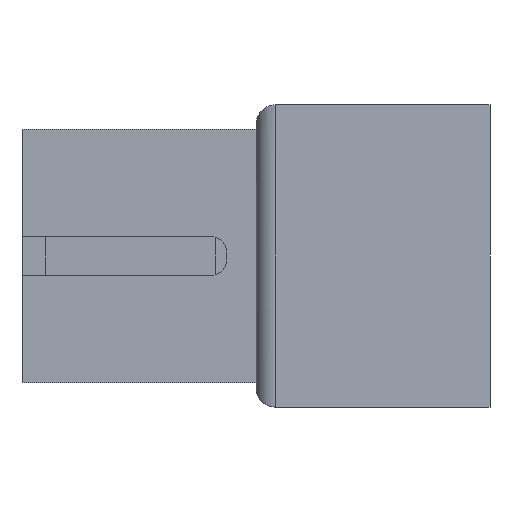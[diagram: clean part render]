
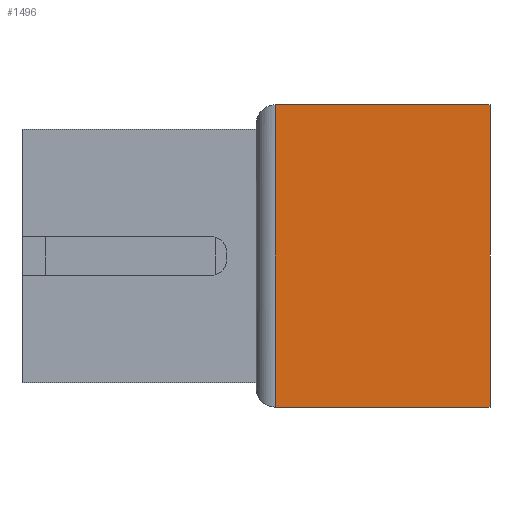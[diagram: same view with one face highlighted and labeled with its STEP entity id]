
A CAD part, front view. The second image highlights one B-rep face of the part: STEP entity #1496.
In plain terms, the highlighted planar face has unit normal (0, -1, 0).
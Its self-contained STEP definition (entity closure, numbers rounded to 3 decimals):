
#120 = ORIENTED_EDGE ( 'NONE', *, *, #452, .T. ) ;
#209 = CARTESIAN_POINT ( 'NONE',  ( -12., 0., -15.5 ) ) ;
#341 = CARTESIAN_POINT ( 'NONE',  ( 0., 0., -15.5 ) ) ;
#437 = DIRECTION ( 'NONE',  ( 1., 0., 0. ) ) ;
#444 = CARTESIAN_POINT ( 'NONE',  ( -11., 0., -15.5 ) ) ;
#452 = EDGE_CURVE ( 'NONE', #2673, #1414, #493, .T. ) ;
#493 = LINE ( 'NONE', #1318, #1036 ) ;
#542 = FACE_OUTER_BOUND ( 'NONE', #2362, .T. ) ;
#558 = VECTOR ( 'NONE', #2357, 1000. ) ;
#611 = CARTESIAN_POINT ( 'NONE',  ( -12., 0., 0. ) ) ;
#748 = LINE ( 'NONE', #611, #2725 ) ;
#916 = EDGE_CURVE ( 'NONE', #2673, #1423, #748, .T. ) ;
#967 = DIRECTION ( 'NONE',  ( 0., -1., 0. ) ) ;
#977 = ORIENTED_EDGE ( 'NONE', *, *, #2903, .T. ) ;
#1036 = VECTOR ( 'NONE', #1548, 1000. ) ;
#1126 = CARTESIAN_POINT ( 'NONE',  ( 0., 0., 0. ) ) ;
#1198 = VECTOR ( 'NONE', #437, 1000. ) ;
#1201 = DIRECTION ( 'NONE',  ( 0., 0., -1. ) ) ;
#1318 = CARTESIAN_POINT ( 'NONE',  ( -11., 0., 0. ) ) ;
#1414 = VERTEX_POINT ( 'NONE', #444 ) ;
#1423 = VERTEX_POINT ( 'NONE', #1126 ) ;
#1496 = ADVANCED_FACE ( 'NONE', ( #542 ), #2560, .T. ) ;
#1548 = DIRECTION ( 'NONE',  ( 0., 0., -1. ) ) ;
#1683 = AXIS2_PLACEMENT_3D ( 'NONE', #2336, #967, #1201 ) ;
#2134 = CARTESIAN_POINT ( 'NONE',  ( 0., 0., 0. ) ) ;
#2176 = ORIENTED_EDGE ( 'NONE', *, *, #916, .F. ) ;
#2277 = ORIENTED_EDGE ( 'NONE', *, *, #2513, .F. ) ;
#2336 = CARTESIAN_POINT ( 'NONE',  ( -12., 0., 0. ) ) ;
#2357 = DIRECTION ( 'NONE',  ( 0., 0., -1. ) ) ;
#2362 = EDGE_LOOP ( 'NONE', ( #2176, #120, #977, #2277 ) ) ;
#2456 = DIRECTION ( 'NONE',  ( 1., 0., 0. ) ) ;
#2513 = EDGE_CURVE ( 'NONE', #1423, #2793, #2757, .T. ) ;
#2560 = PLANE ( 'NONE',  #1683 ) ;
#2673 = VERTEX_POINT ( 'NONE', #2859 ) ;
#2711 = LINE ( 'NONE', #209, #1198 ) ;
#2725 = VECTOR ( 'NONE', #2456, 1000. ) ;
#2757 = LINE ( 'NONE', #2134, #558 ) ;
#2793 = VERTEX_POINT ( 'NONE', #341 ) ;
#2859 = CARTESIAN_POINT ( 'NONE',  ( -11., 0., 0. ) ) ;
#2903 = EDGE_CURVE ( 'NONE', #1414, #2793, #2711, .T. ) ;
